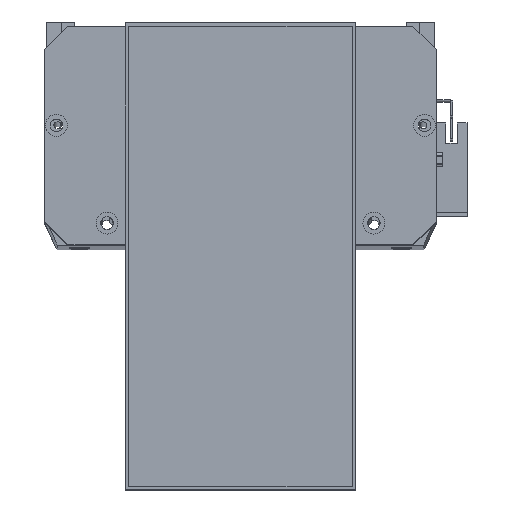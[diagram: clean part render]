
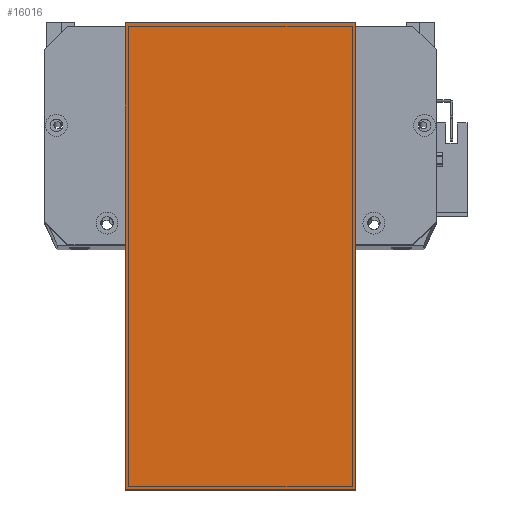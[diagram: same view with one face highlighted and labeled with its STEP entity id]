
A CAD part, top view. The second image highlights one B-rep face of the part: STEP entity #16016.
In plain terms, the highlighted planar face has unit normal (0, 0, 1) as drawn and (0, 0, -1) by its records, which use the part's own axes.
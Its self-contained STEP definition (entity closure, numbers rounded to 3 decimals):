
#53 = VECTOR ( 'NONE', #17039, 1000. ) ;
#66 = VERTEX_POINT ( 'NONE', #16644 ) ;
#228 = EDGE_CURVE ( 'NONE', #3251, #11418, #28692, .T. ) ;
#1496 = ORIENTED_EDGE ( 'NONE', *, *, #10951, .F. ) ;
#2556 = DIRECTION ( 'NONE',  ( 1., 0., 0. ) ) ;
#2652 = VECTOR ( 'NONE', #2556, 1000. ) ;
#3251 = VERTEX_POINT ( 'NONE', #24725 ) ;
#3525 = CARTESIAN_POINT ( 'NONE',  ( -12., 119.5, 0. ) ) ;
#4066 = LINE ( 'NONE', #15298, #27344 ) ;
#4342 = CARTESIAN_POINT ( 'NONE',  ( 203., 119.5, 0. ) ) ;
#4386 = EDGE_CURVE ( 'NONE', #3251, #66, #7599, .T. ) ;
#4919 = FACE_OUTER_BOUND ( 'NONE', #9579, .T. ) ;
#6012 = ORIENTED_EDGE ( 'NONE', *, *, #228, .T. ) ;
#6342 = DIRECTION ( 'NONE',  ( 0., 1., 0. ) ) ;
#6887 = CARTESIAN_POINT ( 'NONE',  ( 203., 19.5, 0. ) ) ;
#7599 = LINE ( 'NONE', #16440, #13599 ) ;
#9546 = CARTESIAN_POINT ( 'NONE',  ( -12., 19.5, 0. ) ) ;
#9579 = EDGE_LOOP ( 'NONE', ( #1496, #22566, #6012, #18211 ) ) ;
#10264 = DIRECTION ( 'NONE',  ( 0., 0., -1. ) ) ;
#10951 = EDGE_CURVE ( 'NONE', #66, #12264, #14710, .T. ) ;
#11179 = AXIS2_PLACEMENT_3D ( 'NONE', #28158, #10264, #25990 ) ;
#11337 = EDGE_CURVE ( 'NONE', #12264, #11418, #4066, .T. ) ;
#11418 = VERTEX_POINT ( 'NONE', #4342 ) ;
#12264 = VERTEX_POINT ( 'NONE', #6887 ) ;
#13599 = VECTOR ( 'NONE', #18735, 1000. ) ;
#14710 = LINE ( 'NONE', #9546, #2652 ) ;
#15298 = CARTESIAN_POINT ( 'NONE',  ( 203., 0., 0. ) ) ;
#16016 = ADVANCED_FACE ( 'NONE', ( #4919 ), #23730, .T. ) ;
#16440 = CARTESIAN_POINT ( 'NONE',  ( 0., 0., 0. ) ) ;
#16644 = CARTESIAN_POINT ( 'NONE',  ( 0., 19.5, 0. ) ) ;
#17039 = DIRECTION ( 'NONE',  ( 1., 0., 0. ) ) ;
#18211 = ORIENTED_EDGE ( 'NONE', *, *, #11337, .F. ) ;
#18735 = DIRECTION ( 'NONE',  ( 0., -1., 0. ) ) ;
#22566 = ORIENTED_EDGE ( 'NONE', *, *, #4386, .F. ) ;
#23730 = PLANE ( 'NONE',  #11179 ) ;
#24725 = CARTESIAN_POINT ( 'NONE',  ( 0., 119.5, 0. ) ) ;
#25990 = DIRECTION ( 'NONE',  ( -1., 0., 0. ) ) ;
#27344 = VECTOR ( 'NONE', #6342, 1000. ) ;
#28158 = CARTESIAN_POINT ( 'NONE',  ( 0., 0., 0. ) ) ;
#28692 = LINE ( 'NONE', #3525, #53 ) ;
